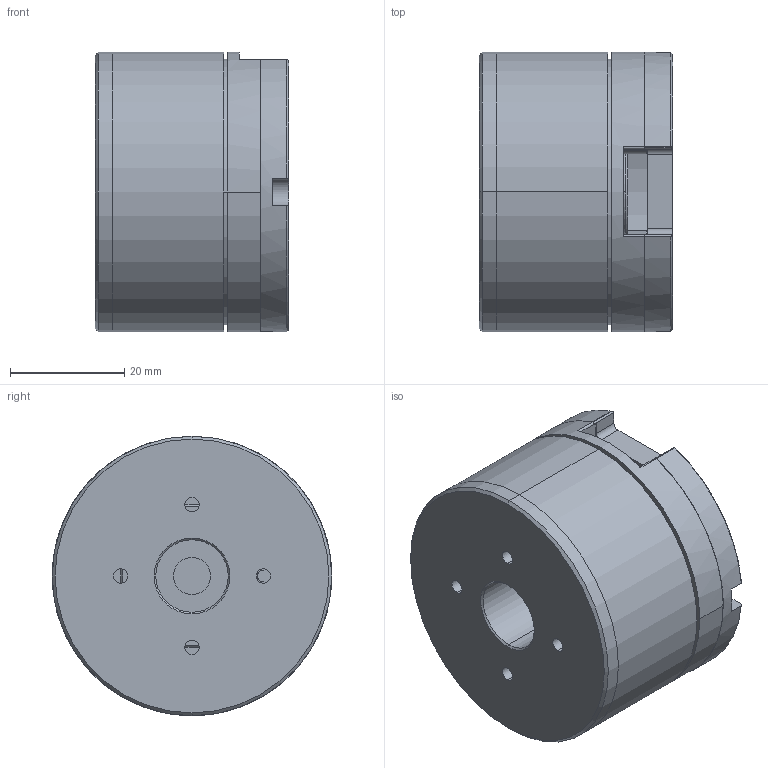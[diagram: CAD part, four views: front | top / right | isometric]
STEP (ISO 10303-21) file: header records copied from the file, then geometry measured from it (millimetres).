
FILE_DESCRIPTION (( 'STEP AP214' ), '1' );
FILE_NAME ('RMD-5015（12.7大孔）.STEP', '2024-01-23T08:27:50', ( '' ), ( '' ), 'SwSTEP 2.0', 'SolidWorks 2020', '' );
FILE_SCHEMA (( 'AUTOMOTIVE_DESIGN' ));
Length unit declared in the file: millimetre
Products named in the file (5): RMD-5015（12.7大孔）; XM_5015DM_BC; XM_5015DM_CA; XM_5015DM_MC; XM_50DM_FC
Assembly tree (4 placements, depth 2):
  RMD-5015（12.7大孔）
    XM_5015DM_MC
    XM_5015DM_BC
    XM_5015DM_CA
    XM_50DM_FC
Bounding box: 33.9 x 49 x 49 mm (x, y, z)
Volume: 19820.5 mm3; surface area: 27580.7 mm2
Topology: 4 solids, 4 shells, 354 faces, 962 edges, 630 vertices
Faces by surface type: plane 170, cylinder 155, cone 29
Entity records: 15476 total; most frequent: DIRECTION 2130, CARTESIAN_POINT 1979, ORIENTED_EDGE 1908, EDGE_CURVE 954, AXIS2_PLACEMENT_3D 825, VERTEX_POINT 630, VECTOR 480, LINE 480
